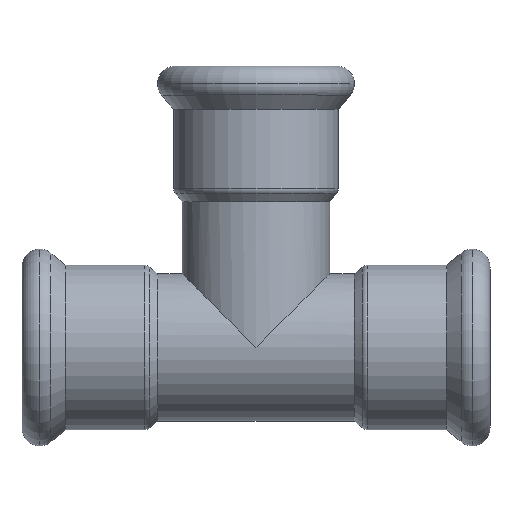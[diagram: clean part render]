
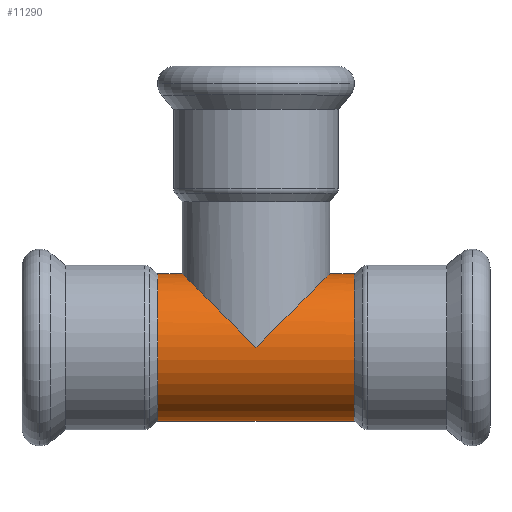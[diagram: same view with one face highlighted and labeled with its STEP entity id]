
A CAD part, top view. The second image highlights one B-rep face of the part: STEP entity #11290.
In plain terms, the highlighted cylindrical face has radius 14 mm (diameter 28 mm), a partial arc.
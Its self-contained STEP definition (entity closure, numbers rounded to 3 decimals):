
#8150=CARTESIAN_POINT('',(-418.306,28.173,0.));
#8160=VERTEX_POINT('',#8150);
#8250=CARTESIAN_POINT('',(-390.306,28.173,
0.));
#8260=VERTEX_POINT('',#8250);
#8290=CARTESIAN_POINT('',(-404.306,14.173,0.));
#8300=DIRECTION('',(-0.707,0.707,0.));
#8310=DIRECTION('',(0.707,0.707,0.));
#8320=AXIS2_PLACEMENT_3D('',#8290,#8300,#8310);
#8330=ELLIPSE('',#8320,19.799,14.);
#8340=CARTESIAN_POINT('',(-404.306,14.173,14.));
#8350=VERTEX_POINT('',#8340);
#8360=EDGE_CURVE('',#8350,#8260,#8330,.T.);
#8380=CARTESIAN_POINT('',(-404.306,14.173,0.));
#8390=DIRECTION('',(0.707,0.707,0.));
#8400=DIRECTION('',(-0.707,0.707,0.));
#8410=AXIS2_PLACEMENT_3D('',#8380,#8390,#8400);
#8420=ELLIPSE('',#8410,19.799,14.);
#8430=EDGE_CURVE('',#8160,#8350,#8420,.T.);
#8830=CARTESIAN_POINT('',(-423.006,0.173,0.));
#8840=VERTEX_POINT('',#8830);
#8920=CARTESIAN_POINT('',(-423.006,28.173,
0.));
#8930=VERTEX_POINT('',#8920);
#8960=CARTESIAN_POINT('',(-423.006,14.173,0.));
#8970=DIRECTION('',(-1.,0.,0.));
#8980=DIRECTION('',(0.,-1.,0.));
#8990=AXIS2_PLACEMENT_3D('',#8960,#8970,#8980);
#9000=CIRCLE('',#8990,14.);
#9010=EDGE_CURVE('',#8840,#8930,#9000,.T.);
#10410=CARTESIAN_POINT('',(-385.606,28.173,
0.));
#10420=VERTEX_POINT('',#10410);
#10510=CARTESIAN_POINT('',(-385.606,0.173,0.));
#10520=VERTEX_POINT('',#10510);
#10550=CARTESIAN_POINT('',(-385.606,14.173,0.));
#10560=DIRECTION('',(-1.,0.,0.));
#10570=DIRECTION('',(0.,1.,0.));
#10580=AXIS2_PLACEMENT_3D('',#10550,#10560,#10570);
#10590=CIRCLE('',#10580,14.);
#10600=EDGE_CURVE('',#10520,#10420,#10590,.T.);
#11040=CARTESIAN_POINT('',(-423.006,14.173,0.));
#11050=DIRECTION('',(-1.,0.,0.));
#11060=DIRECTION('',(0.,1.,0.));
#11070=AXIS2_PLACEMENT_3D('',#11040,#11050,#11060);
#11080=CYLINDRICAL_SURFACE('',#11070,14.);
#11090=CARTESIAN_POINT('',(-423.006,0.173,
0.));
#11100=DIRECTION('',(-1.,0.,0.));
#11110=VECTOR('',#11100,1.);
#11120=LINE('',#11090,#11110);
#11130=EDGE_CURVE('',#10520,#8840,#11120,.T.);
#11140=ORIENTED_EDGE('',*,*,#11130,.F.);
#11150=ORIENTED_EDGE('',*,*,#9010,.F.);
#11160=CARTESIAN_POINT('',(-423.006,28.173,0.));
#11170=DIRECTION('',(-1.,0.,0.));
#11180=VECTOR('',#11170,1.);
#11190=LINE('',#11160,#11180);
#11200=EDGE_CURVE('',#8160,#8930,#11190,.T.);
#11210=ORIENTED_EDGE('',*,*,#11200,.T.);
#11220=ORIENTED_EDGE('',*,*,#8430,.F.);
#11230=ORIENTED_EDGE('',*,*,#8360,.F.);
#11240=EDGE_CURVE('',#10420,#8260,#11190,.T.);
#11250=ORIENTED_EDGE('',*,*,#11240,.T.);
#11260=ORIENTED_EDGE('',*,*,#10600,.T.);
#11270=EDGE_LOOP('',(#11260,#11250,#11230,#11220,#11210,#11150,#11140));
#11280=FACE_OUTER_BOUND('',#11270,.T.);
#11290=ADVANCED_FACE('',(#11280),#11080,.T.);
